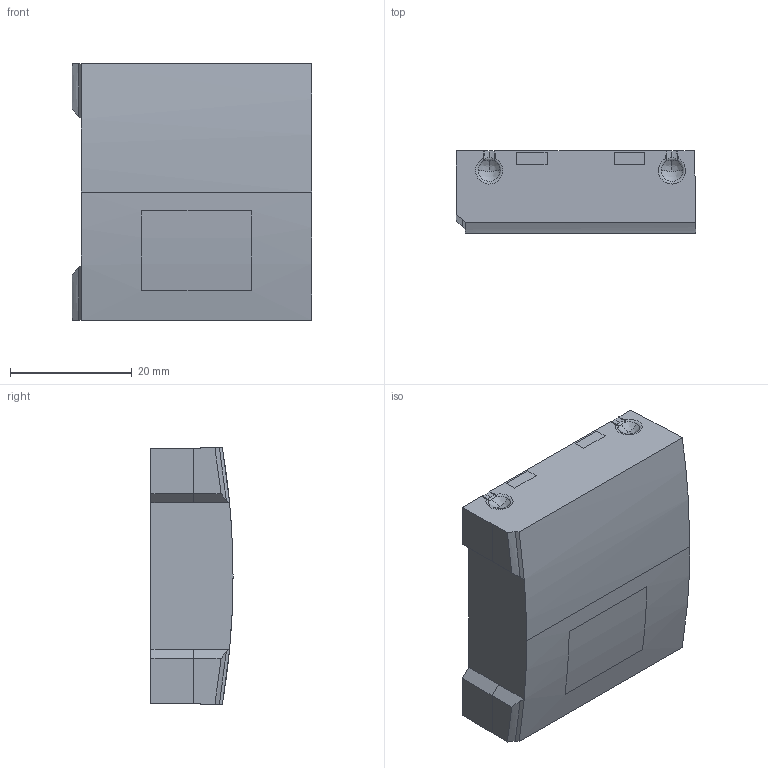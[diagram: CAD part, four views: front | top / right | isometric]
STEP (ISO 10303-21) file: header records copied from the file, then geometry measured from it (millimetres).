
FILE_DESCRIPTION(('STEP AP242'), '1');
FILE_NAME('XD-RTC-BD', '2025-03-26T17:47:29', (''), ('PROMPOWER'), 'C3D Converter', 'C3D Toolkit', '');
FILE_SCHEMA(('AP242_MANAGED_MODEL_BASED_3D_ENGINEERING_MIM_LF { 1 0 10303 442 1 1 4 }'));
Length unit declared in the file: millimetre
Products named in the file (1): PMP-RTC-BD PROMPOWER
Bounding box: 39.39 x 13.47 x 42.14 mm (x, y, z)
Volume: 20680.6 mm3; surface area: 5235.5 mm2
Topology: 1 solids, 1 shells, 69 faces, 177 edges, 115 vertices
Faces by surface type: bspline 49, plane 17, cylinder 3
Entity records: 4833 total; most frequent: CARTESIAN_POINT 3006, ORIENTED_EDGE 354, EDGE_CURVE 177, VERTEX_POINT 115, B_SPLINE_CURVE_WITH_KNOTS 113, DIRECTION 100, FACE_BOUND 74, EDGE_LOOP 74
